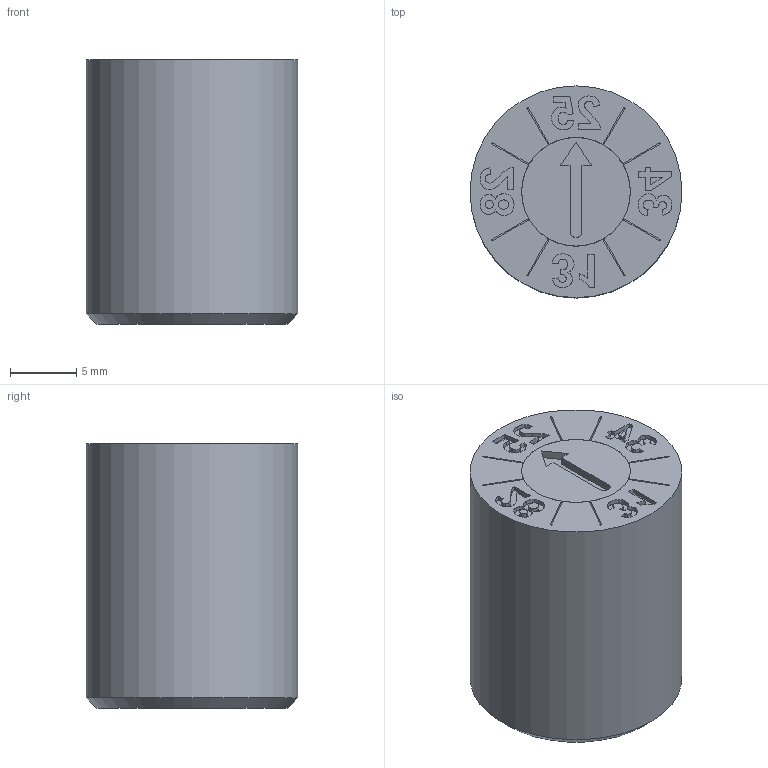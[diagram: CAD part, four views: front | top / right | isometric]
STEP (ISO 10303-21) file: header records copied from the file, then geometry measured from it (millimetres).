
FILE_DESCRIPTION(/* description */ (''),/* implementation_level */ '2;1');
FILE_NAME(/* name */ 'IMC-D2400-YEE16.step',/* time_stamp */ '2025-11-05T11:17:17+01:00',/* author */ (''),/* organization */ (''),/* preprocessor_version */ 'ST-DEVELOPER v20.1',/* originating_system */ 'Autodesk Translation Framework v14.17.0.0',/* authorisation */ '');
FILE_SCHEMA (('AUTOMOTIVE_DESIGN { 1 0 10303 214 3 1 1 }'));
Length unit declared in the file: millimetre
Products named in the file (1): D2400-YEE16
Bounding box: 16 x 16 x 20 mm (x, y, z)
Volume: 3931 mm3; surface area: 1545.4 mm2
Topology: 1 solids, 1 shells, 235 faces, 654 edges, 435 vertices
Faces by surface type: bspline 133, plane 86, cylinder 13, cone 3
Full cylindrical faces by diameter (mm): 4.234 x1, 8.2 x1, 8.22 x1, 16 x1
Entity records: 8766 total; most frequent: CARTESIAN_POINT 3585, ORIENTED_EDGE 1306, EDGE_CURVE 653, DIRECTION 637, VERTEX_POINT 435, LINE 343, VECTOR 343, B_SPLINE_CURVE_WITH_KNOTS 266
